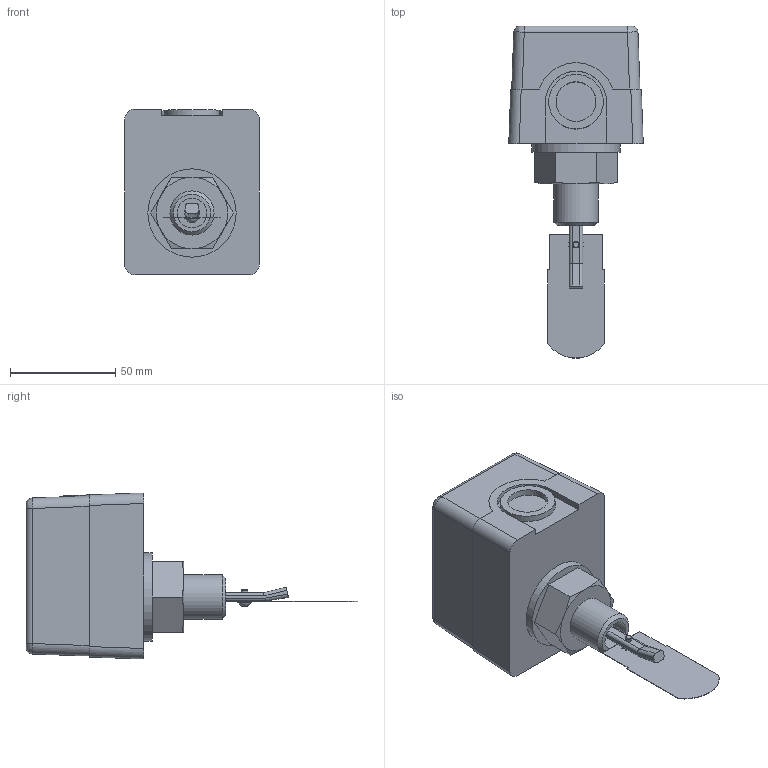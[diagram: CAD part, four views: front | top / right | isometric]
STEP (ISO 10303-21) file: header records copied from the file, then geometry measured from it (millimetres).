
FILE_DESCRIPTION(/* description */ ('РП-1-R1/2 Лопасть 59'),/* implementation_level */ '2;1');
FILE_NAME(/* name */ 'D:\STEP\РП\РП-1-R1_2 Лопасть 59.stp',/* time_stamp */ '2023-05-10T12:42:29+03:00',/* author */ ('Tech'),/* organization */ (''),/* preprocessor_version */ 'ST-DEVELOPER v18.1',/* originating_system */ 'Autodesk Inventor 2021',/* authorisation */ '');
FILE_SCHEMA (('AUTOMOTIVE_DESIGN { 1 0 10303 214 3 1 1 }'));
Length unit declared in the file: millimetre
Products named in the file (1): РП-1-R1/2 Лопасть 
59
Bounding box: 64 x 157.94 x 79 mm (x, y, z)
Volume: 283389 mm3; surface area: 34531.4 mm2
Topology: 4 solids, 4 shells, 197 faces, 507 edges, 338 vertices
Faces by surface type: plane 117, cylinder 65, cone 9, bspline 4, torus 1, sphere 1
Full cylindrical faces by diameter (mm): 2.584 x1, 3 x2, 3.2 x1, 4.5 x1, 5.115 x1, 5.5 x1, 7 x1, 14 x1, 19 x1, 20.955 x1, 26 x1, 42 x1
Entity records: 6214 total; most frequent: CARTESIAN_POINT 1198, DIRECTION 1050, ORIENTED_EDGE 1012, EDGE_CURVE 506, AXIS2_PLACEMENT_3D 370, VERTEX_POINT 338, LINE 310, VECTOR 310
